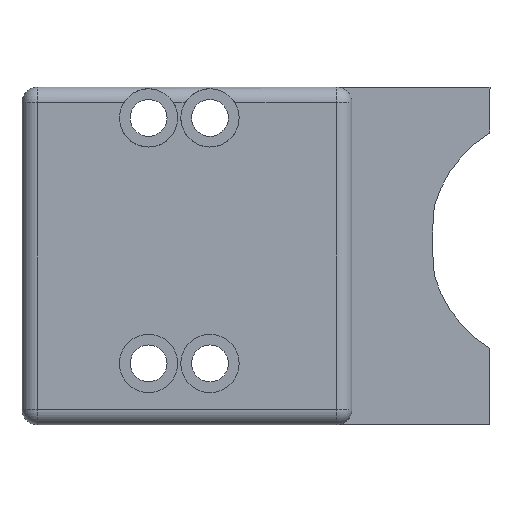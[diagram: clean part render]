
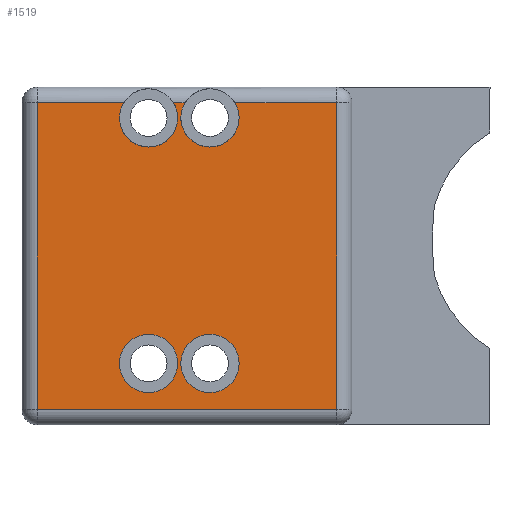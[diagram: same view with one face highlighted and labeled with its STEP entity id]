
A CAD part, left-side view. The second image highlights one B-rep face of the part: STEP entity #1519.
In plain terms, the highlighted planar face has unit normal (-1, 0, 0) as drawn and (0, 0, 1) by its records, which use the part's own axes.
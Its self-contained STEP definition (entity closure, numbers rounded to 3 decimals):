
#7 = VERTEX_POINT ( 'NONE', #1506 ) ;
#23 = AXIS2_PLACEMENT_3D ( 'NONE', #1233, #1113, #1241 ) ;
#39 = VERTEX_POINT ( 'NONE', #119 ) ;
#58 = ORIENTED_EDGE ( 'NONE', *, *, #1736, .F. ) ;
#80 = EDGE_CURVE ( 'NONE', #616, #1010, #879, .T. ) ;
#88 = EDGE_CURVE ( 'NONE', #1281, #774, #404, .T. ) ;
#104 = CARTESIAN_POINT ( 'NONE',  ( 48., 23.75, 28. ) ) ;
#119 = CARTESIAN_POINT ( 'NONE',  ( 27., 23.75, 28. ) ) ;
#120 = DIRECTION ( 'NONE',  ( 0., -1., 0. ) ) ;
#143 = CIRCLE ( 'NONE', #678, 1.9 ) ;
#144 = EDGE_CURVE ( 'NONE', #1231, #210, #1573, .T. ) ;
#189 = DIRECTION ( 'NONE',  ( 1., 0., 0. ) ) ;
#193 = FACE_BOUND ( 'NONE', #518, .T. ) ;
#199 = VECTOR ( 'NONE', #120, 1000. ) ;
#210 = VERTEX_POINT ( 'NONE', #1464 ) ;
#220 = VERTEX_POINT ( 'NONE', #619 ) ;
#248 = EDGE_LOOP ( 'NONE', ( #1356, #1313, #640, #1025, #474, #1234, #58, #1229, #793, #642 ) ) ;
#259 = CIRCLE ( 'NONE', #1213, 1.9 ) ;
#266 = VECTOR ( 'NONE', #1263, 1000. ) ;
#295 = CARTESIAN_POINT ( 'NONE',  ( 47., 0., 28. ) ) ;
#304 = CARTESIAN_POINT ( 'NONE',  ( 31.9, 32., 28. ) ) ;
#306 = VERTEX_POINT ( 'NONE', #1067 ) ;
#315 = VECTOR ( 'NONE', #1549, 1000. ) ;
#345 = DIRECTION ( 'NONE',  ( 0., 0., 1. ) ) ;
#377 = VECTOR ( 'NONE', #1680, 1000. ) ;
#388 = DIRECTION ( 'NONE',  ( 0., 0., 1. ) ) ;
#403 = CARTESIAN_POINT ( 'NONE',  ( 27., 0., 28. ) ) ;
#404 = CIRCLE ( 'NONE', #1275, 1.9 ) ;
#439 = CIRCLE ( 'NONE', #466, 1.9 ) ;
#448 = DIRECTION ( 'NONE',  ( 1., 0., 0. ) ) ;
#466 = AXIS2_PLACEMENT_3D ( 'NONE', #633, #1626, #1199 ) ;
#474 = ORIENTED_EDGE ( 'NONE', *, *, #1783, .T. ) ;
#477 = VERTEX_POINT ( 'NONE', #878 ) ;
#489 = DIRECTION ( 'NONE',  ( 0., 0., 1. ) ) ;
#507 = EDGE_CURVE ( 'NONE', #779, #306, #259, .T. ) ;
#518 = EDGE_LOOP ( 'NONE', ( #857, #1687 ) ) ;
#528 = AXIS2_PLACEMENT_3D ( 'NONE', #1350, #613, #189 ) ;
#539 = DIRECTION ( 'NONE',  ( 1., 0., 0. ) ) ;
#553 = DIRECTION ( 'NONE',  ( 1., 0., 0. ) ) ;
#567 = CARTESIAN_POINT ( 'NONE',  ( 48., 43.25, 28. ) ) ;
#593 = CIRCLE ( 'NONE', #686, 1.9 ) ;
#612 = ORIENTED_EDGE ( 'NONE', *, *, #88, .F. ) ;
#613 = DIRECTION ( 'NONE',  ( 0., 0., 1. ) ) ;
#616 = VERTEX_POINT ( 'NONE', #1770 ) ;
#619 = CARTESIAN_POINT ( 'NONE',  ( 47., 23.75, 28. ) ) ;
#631 = CARTESIAN_POINT ( 'NONE',  ( 48., 0., 28. ) ) ;
#633 = CARTESIAN_POINT ( 'NONE',  ( 30., 32., 28. ) ) ;
#640 = ORIENTED_EDGE ( 'NONE', *, *, #80, .T. ) ;
#642 = ORIENTED_EDGE ( 'NONE', *, *, #646, .F. ) ;
#646 = EDGE_CURVE ( 'NONE', #1298, #210, #143, .T. ) ;
#653 = EDGE_LOOP ( 'NONE', ( #612, #834 ) ) ;
#659 = EDGE_CURVE ( 'NONE', #306, #779, #1451, .T. ) ;
#668 = CARTESIAN_POINT ( 'NONE',  ( 44.1, 32., 28. ) ) ;
#678 = AXIS2_PLACEMENT_3D ( 'NONE', #1201, #489, #783 ) ;
#682 = LINE ( 'NONE', #1819, #377 ) ;
#686 = AXIS2_PLACEMENT_3D ( 'NONE', #849, #1388, #553 ) ;
#693 = LINE ( 'NONE', #104, #266 ) ;
#695 = EDGE_CURVE ( 'NONE', #477, #1298, #1694, .T. ) ;
#732 = DIRECTION ( 'NONE',  ( -1., 0., 0. ) ) ;
#770 = PLANE ( 'NONE',  #1220 ) ;
#774 = VERTEX_POINT ( 'NONE', #1826 ) ;
#779 = VERTEX_POINT ( 'NONE', #1806 ) ;
#783 = DIRECTION ( 'NONE',  ( 1., 0., 0. ) ) ;
#791 = EDGE_CURVE ( 'NONE', #220, #7, #682, .T. ) ;
#793 = ORIENTED_EDGE ( 'NONE', *, *, #144, .T. ) ;
#834 = ORIENTED_EDGE ( 'NONE', *, *, #1090, .F. ) ;
#837 = CIRCLE ( 'NONE', #23, 1.9 ) ;
#840 = VECTOR ( 'NONE', #1681, 1000. ) ;
#849 = CARTESIAN_POINT ( 'NONE',  ( 46., 32., 28. ) ) ;
#857 = ORIENTED_EDGE ( 'NONE', *, *, #659, .F. ) ;
#878 = CARTESIAN_POINT ( 'NONE',  ( 47., 37.616, 28. ) ) ;
#879 = LINE ( 'NONE', #567, #1061 ) ;
#906 = CARTESIAN_POINT ( 'NONE',  ( 27., 43.25, 28. ) ) ;
#920 = FACE_BOUND ( 'NONE', #653, .T. ) ;
#1010 = VERTEX_POINT ( 'NONE', #906 ) ;
#1024 = CARTESIAN_POINT ( 'NONE',  ( 44.1, 36., 28. ) ) ;
#1025 = ORIENTED_EDGE ( 'NONE', *, *, #1151, .T. ) ;
#1061 = VECTOR ( 'NONE', #732, 1000. ) ;
#1067 = CARTESIAN_POINT ( 'NONE',  ( 31.9, 36., 28. ) ) ;
#1090 = EDGE_CURVE ( 'NONE', #774, #1281, #439, .T. ) ;
#1113 = DIRECTION ( 'NONE',  ( 0., 0., 1. ) ) ;
#1122 = CARTESIAN_POINT ( 'NONE',  ( 30., 36., 28. ) ) ;
#1134 = VERTEX_POINT ( 'NONE', #668 ) ;
#1151 = EDGE_CURVE ( 'NONE', #1010, #39, #1824, .T. ) ;
#1197 = FACE_OUTER_BOUND ( 'NONE', #248, .T. ) ;
#1199 = DIRECTION ( 'NONE',  ( 1., 0., 0. ) ) ;
#1201 = CARTESIAN_POINT ( 'NONE',  ( 46., 36., 28. ) ) ;
#1213 = AXIS2_PLACEMENT_3D ( 'NONE', #1122, #1571, #1565 ) ;
#1220 = AXIS2_PLACEMENT_3D ( 'NONE', #631, #345, #1766 ) ;
#1229 = ORIENTED_EDGE ( 'NONE', *, *, #1804, .F. ) ;
#1231 = VERTEX_POINT ( 'NONE', #1377 ) ;
#1233 = CARTESIAN_POINT ( 'NONE',  ( 46., 32., 28. ) ) ;
#1234 = ORIENTED_EDGE ( 'NONE', *, *, #791, .T. ) ;
#1241 = DIRECTION ( 'NONE',  ( 1., 0., 0. ) ) ;
#1263 = DIRECTION ( 'NONE',  ( 1., 0., 0. ) ) ;
#1275 = AXIS2_PLACEMENT_3D ( 'NONE', #1721, #1415, #448 ) ;
#1281 = VERTEX_POINT ( 'NONE', #304 ) ;
#1298 = VERTEX_POINT ( 'NONE', #1024 ) ;
#1313 = ORIENTED_EDGE ( 'NONE', *, *, #1812, .T. ) ;
#1350 = CARTESIAN_POINT ( 'NONE',  ( 30., 36., 28. ) ) ;
#1356 = ORIENTED_EDGE ( 'NONE', *, *, #695, .F. ) ;
#1377 = CARTESIAN_POINT ( 'NONE',  ( 47., 33.616, 28. ) ) ;
#1388 = DIRECTION ( 'NONE',  ( 0., 0., 1. ) ) ;
#1415 = DIRECTION ( 'NONE',  ( 0., 0., 1. ) ) ;
#1451 = CIRCLE ( 'NONE', #528, 1.9 ) ;
#1464 = CARTESIAN_POINT ( 'NONE',  ( 47., 34.384, 28. ) ) ;
#1506 = CARTESIAN_POINT ( 'NONE',  ( 47., 30.384, 28. ) ) ;
#1519 = ADVANCED_FACE ( 'NONE', ( #1197, #920, #193 ), #770, .T. ) ;
#1549 = DIRECTION ( 'NONE',  ( 0., 1., 0. ) ) ;
#1555 = CARTESIAN_POINT ( 'NONE',  ( 47., 0., 28. ) ) ;
#1565 = DIRECTION ( 'NONE',  ( 1., 0., 0. ) ) ;
#1571 = DIRECTION ( 'NONE',  ( 0., 0., 1. ) ) ;
#1573 = LINE ( 'NONE', #295, #315 ) ;
#1575 = AXIS2_PLACEMENT_3D ( 'NONE', #1670, #388, #539 ) ;
#1626 = DIRECTION ( 'NONE',  ( 0., 0., 1. ) ) ;
#1661 = LINE ( 'NONE', #1555, #840 ) ;
#1670 = CARTESIAN_POINT ( 'NONE',  ( 46., 36., 28. ) ) ;
#1680 = DIRECTION ( 'NONE',  ( 0., 1., 0. ) ) ;
#1681 = DIRECTION ( 'NONE',  ( 0., 1., 0. ) ) ;
#1687 = ORIENTED_EDGE ( 'NONE', *, *, #507, .F. ) ;
#1694 = CIRCLE ( 'NONE', #1575, 1.9 ) ;
#1721 = CARTESIAN_POINT ( 'NONE',  ( 30., 32., 28. ) ) ;
#1736 = EDGE_CURVE ( 'NONE', #1134, #7, #837, .T. ) ;
#1766 = DIRECTION ( 'NONE',  ( -1., 0., 0. ) ) ;
#1770 = CARTESIAN_POINT ( 'NONE',  ( 47., 43.25, 28. ) ) ;
#1783 = EDGE_CURVE ( 'NONE', #39, #220, #693, .T. ) ;
#1804 = EDGE_CURVE ( 'NONE', #1231, #1134, #593, .T. ) ;
#1806 = CARTESIAN_POINT ( 'NONE',  ( 28.1, 36., 28. ) ) ;
#1812 = EDGE_CURVE ( 'NONE', #477, #616, #1661, .T. ) ;
#1819 = CARTESIAN_POINT ( 'NONE',  ( 47., 0., 28. ) ) ;
#1824 = LINE ( 'NONE', #403, #199 ) ;
#1826 = CARTESIAN_POINT ( 'NONE',  ( 28.1, 32., 28. ) ) ;
